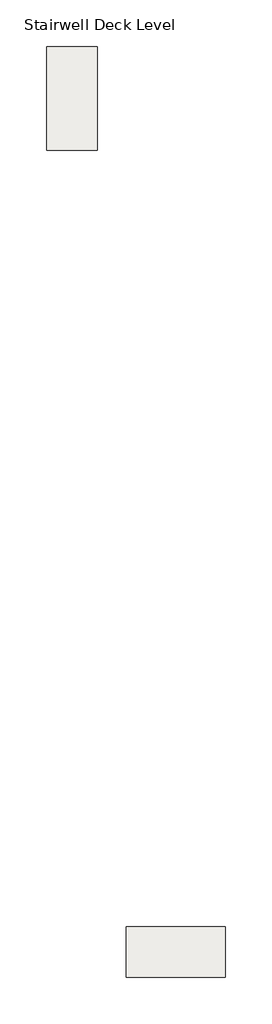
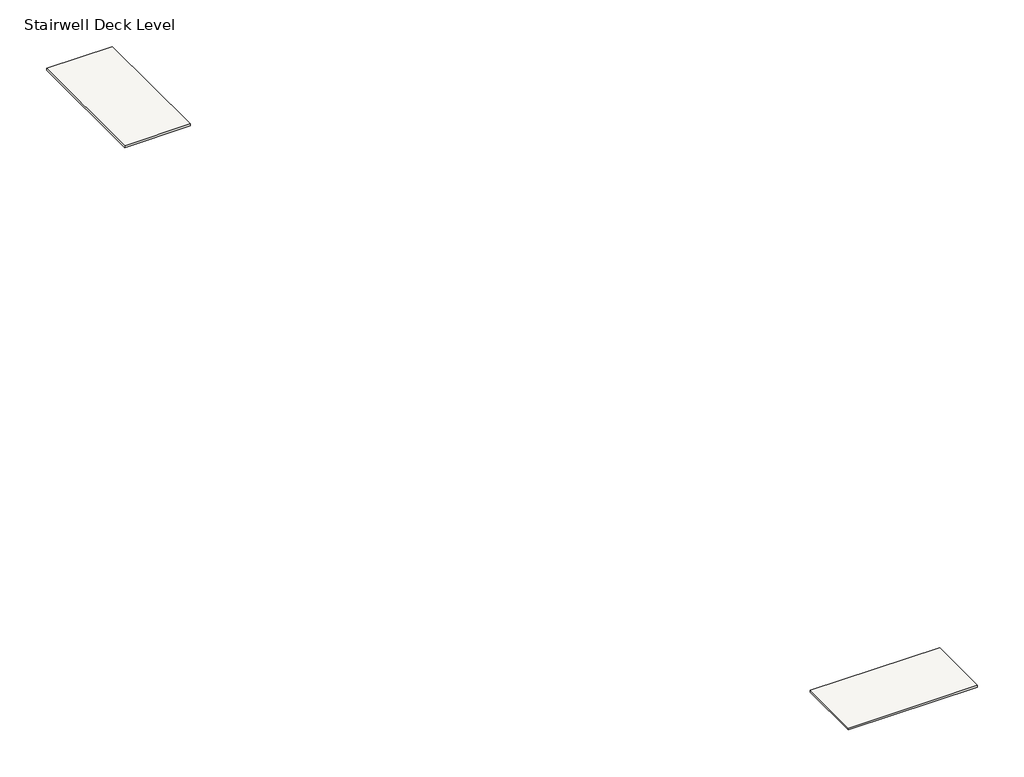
# One storey: 2 roofs.
"""IFC4 building model written with IfcOpenShell, lengths in millimetres."""

import ifcopenshell
import ifcopenshell.guid

model = None  # the IFC model being written
_history = None  # IfcOwnerHistory: only IFC2X3 demands one
_inside = {}  # id of a spatial element -> (the spatial element, [elements in it])
_under = {}  # id of a project, library or spatial element -> (it, [spatial elements below it])
_declared = {}  # id of a project -> (the project, [libraries it declares])
_typed = {}  # id of a type object -> (the type object, [elements of that type])
_made_of = {}  # id of a material, layer set ... -> (it, [elements and type objects made of it])


def new_model(schema):
    """Start an empty IFC model of exactly this schema.

    Asked for "IFC4X3", IfcOpenShell would pick the latest addendum, in which some entities
    have other attributes; the version numbers below select the first issue.
    IFC2X3 requires an IfcOwnerHistory on every rooted entity: one is made here for all.
    """
    global model, _history
    if schema == "IFC4X3":
        model = ifcopenshell.file(schema_version=(4, 3, 0, 0))
    else:
        model = ifcopenshell.file(schema=schema)
    _inside.clear()
    _under.clear()
    _declared.clear()
    _typed.clear()
    _made_of.clear()
    _history = None
    if model.schema == "IFC2X3":
        org = make("IfcOrganization", Name="unknown")
        user = make(
            "IfcPersonAndOrganization",
            ThePerson=make("IfcPerson", FamilyName="unknown"),
            TheOrganization=org,
        )
        app = make(
            "IfcApplication",
            ApplicationDeveloper=org,
            Version="unknown",
            ApplicationFullName="unknown",
            ApplicationIdentifier="unknown",
        )
        _history = make(
            "IfcOwnerHistory",
            OwningUser=user,
            OwningApplication=app,
            ChangeAction="ADDED",
            CreationDate=0,
        )
    return model


def make(cls, **values):
    """One entity of the class cls with the attributes given. An attribute that is None is left unset."""
    return model.create_entity(
        cls, **{name: value for name, value in values.items() if value is not None}
    )


def rooted(cls, **values):
    """An entity with a GlobalId (a new one), such as an element, a storey or a relation."""
    return make(cls, GlobalId=ifcopenshell.guid.new(), OwnerHistory=_history, **values)


def si_unit(unit_type, name, prefix=None):
    """IfcSIUnit, for example si_unit("LENGTHUNIT", "METRE", prefix="MILLI")."""
    return make("IfcSIUnit", UnitType=unit_type, Prefix=prefix, Name=name)


def assignment(units):
    """IfcUnitAssignment: the units of a project."""
    return None if units is None else make("IfcUnitAssignment", Units=units)


def point(xyz):
    """IfcCartesianPoint."""
    return None if xyz is None else make("IfcCartesianPoint", Coordinates=xyz)


def direction(xyz):
    """IfcDirection."""
    return None if xyz is None else make("IfcDirection", DirectionRatios=xyz)


def frame(location, z_axis=None, x_axis=None):
    """IfcAxis2Placement3D, a coordinate frame: its origin and axes. An axis left out is left unset."""
    return make(
        "IfcAxis2Placement3D",
        Location=point(location),
        Axis=direction(z_axis),
        RefDirection=direction(x_axis),
    )


def origin():
    """The frame at (0, 0, 0) with its axes left unset."""
    return frame((0.0, 0.0, 0.0))


def place(relative_to, where):
    """IfcLocalPlacement: puts the frame where relative to a parent placement (None: the world)."""
    return make(
        "IfcLocalPlacement", PlacementRelTo=relative_to, RelativePlacement=where
    )


def context(
    kind, dimensions, precision=None, world=None, true_north=None, identifier=None
):
    """IfcGeometricRepresentationContext, for example the 3D "Model" context."""
    return make(
        "IfcGeometricRepresentationContext",
        ContextIdentifier=identifier,
        ContextType=kind,
        CoordinateSpaceDimension=dimensions,
        Precision=precision,
        WorldCoordinateSystem=world,
        TrueNorth=true_north,
    )


def project(units=None, contexts=None):
    """IfcProject with its units and contexts."""
    return rooted(
        "IfcProject",
        Name="project",
        RepresentationContexts=contexts,
        UnitsInContext=assignment(units),
    )


def spatial(cls, under=None, at=None, **own):
    """A site, building, storey or space (cls), placed at a placement, below another one or the project."""
    s = rooted(cls, ObjectPlacement=at, **own)
    if under is not None:
        _under.setdefault(under.id(), (under, []))[1].append(s)
    return s


def polyline(points):
    """IfcPolyline through the points."""
    return make("IfcPolyline", Points=[point(p) for p in points])


def outline(outer, holes=None, kind="AREA"):
    """IfcArbitraryClosedProfileDef: a profile drawn as a closed curve; with holes, ...WithVoids."""
    if holes is None:
        return make("IfcArbitraryClosedProfileDef", ProfileType=kind, OuterCurve=outer)
    return make(
        "IfcArbitraryProfileDefWithVoids",
        ProfileType=kind,
        OuterCurve=outer,
        InnerCurves=holes,
    )


def extrude(swept, where, along, depth):
    """IfcExtrudedAreaSolid: the profile swept, set in the frame where, extruded along a direction by depth."""
    return make(
        "IfcExtrudedAreaSolid",
        SweptArea=swept,
        Position=where,
        ExtrudedDirection=direction(along),
        Depth=depth,
    )


def shape(context_of_items, identifier, shape_type, items):
    """IfcShapeRepresentation: the items that make up one representation, for example the "Body"."""
    return make(
        "IfcShapeRepresentation",
        ContextOfItems=context_of_items,
        RepresentationIdentifier=identifier,
        RepresentationType=shape_type,
        Items=items,
    )


def made_of(thing, what):
    """Note that an element or type object is made of a material, layer set ...; save() writes the relation."""
    if what is not None:
        _made_of.setdefault(what.id(), (what, []))[1].append(thing)
    return thing


def element(
    cls,
    number,
    at=None,
    inside=None,
    cuts=None,
    type_object=None,
    material=None,
    context=None,
    identifier="Body",
    shape_type=None,
    held_by="IfcProductDefinitionShape",
    body=None,
    shapes=None,
    **own,
):
    """One element of the class cls, such as IfcWall. Its Tag is "e" and its number.

    at: its placement. inside: the storey or other place that contains it. cuts: it is an
    opening in that element (IfcRelVoidsElement). A single representation is given by context,
    identifier, shape_type and body (its items); several are given by shapes. held_by: the class
    of the entity that holds the representations. save() writes the other relations.
    """
    e = rooted(cls, Tag="e%d" % number, ObjectPlacement=at, **own)
    if body is not None:
        shapes = [shape(context, identifier, shape_type, body)]
    if shapes is not None:
        e.Representation = make(held_by, Representations=shapes)
    if inside is not None:
        _inside.setdefault(inside.id(), (inside, []))[1].append(e)
    if cuts is not None:
        rooted(
            "IfcRelVoidsElement", RelatingBuildingElement=cuts, RelatedOpeningElement=e
        )
    if type_object is not None:
        _typed.setdefault(type_object.id(), (type_object, []))[1].append(e)
    return made_of(e, material)


def aggregate(whole, parts):
    """IfcRelAggregates: a whole, such as a stair, and the parts it consists of."""
    return rooted("IfcRelAggregates", RelatingObject=whole, RelatedObjects=parts)


def save(model, path):
    """Write the relations noted so far, then the file.

    IfcRelAggregates (storeys below a building ...), IfcRelContainedInSpatialStructure (elements
    in a storey), IfcRelDefinesByType, IfcRelAssociatesMaterial and IfcRelDeclares: one each for
    every whole, place, type object, material and project.
    """
    for whole, parts in _under.values():
        aggregate(whole, parts)
    for where, things in _inside.values():
        rooted(
            "IfcRelContainedInSpatialStructure",
            RelatedElements=things,
            RelatingStructure=where,
        )
    for kind, things in _typed.values():
        rooted("IfcRelDefinesByType", RelatedObjects=things, RelatingType=kind)
    for what, things in _made_of.values():
        rooted("IfcRelAssociatesMaterial", RelatedObjects=things, RelatingMaterial=what)
    for by, libraries in _declared.values():
        rooted("IfcRelDeclares", RelatingContext=by, RelatedDefinitions=libraries)
    model.write(path)


model = new_model("IFC4")

# Units and contexts
model_context = context("Model", 3, world=origin())
ifc_project = project(units=[si_unit("LENGTHUNIT", "METRE", prefix="MILLI")], contexts=[model_context])

# Site, building, storey
site = spatial("IfcSite", under=ifc_project)
building = spatial("IfcBuilding", under=site)
storey = spatial("IfcBuildingStorey", under=building, Name="Stairwell Deck Level", Elevation=7400.0)

# Roofs
placement = place(None, origin())
element("IfcRoof", 1, ObjectType="Generic - 100mm", at=placement, inside=storey, context=model_context, shape_type="SweptSolid", body=[
    extrude(outline(polyline([(-2637.2327605, 21755.2153534), (-2637.2327605, 15335.2153534), (-5757.2327605, 15335.2153534), (-5757.2327605, 21755.2153534), (-2637.2327605, 21755.2153534)])), frame((0.0, 0.0, 7600.0), z_axis=(0.0, 0.0, 1.0), x_axis=(1.0, 0.0, 0.0)), (0.0, 0.0, 1.0), 100.0),
])
element("IfcRoof", 2, ObjectType="Generic - 100mm", at=placement, inside=storey, context=model_context, shape_type="SweptSolid", body=[
    extrude(outline(polyline([(-847.2327605, -32644.7846466), (5292.7672395, -32644.7846466), (5292.7672395, -35764.7846466), (-847.2327605, -35764.7846466), (-847.2327605, -32644.7846466)])), frame((0.0, 0.0, 7600.0), z_axis=(0.0, 0.0, 1.0), x_axis=(1.0, 0.0, 0.0)), (0.0, 0.0, 1.0), 100.0),
])

save(model, "model.ifc")
